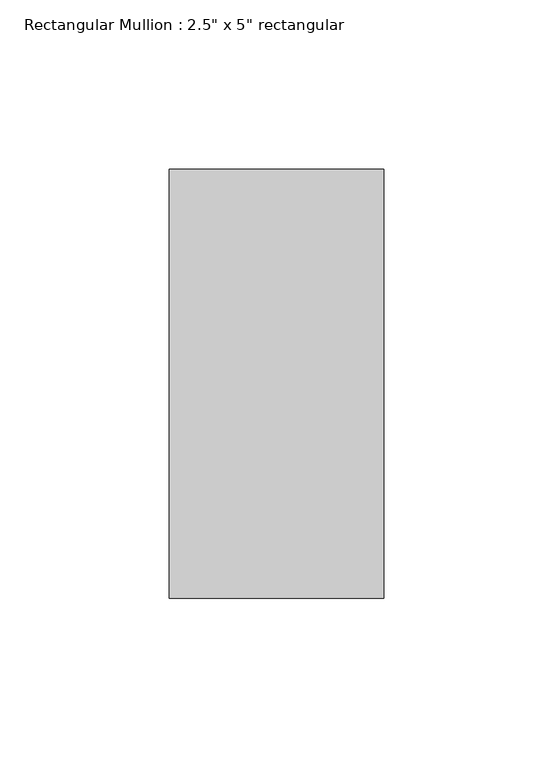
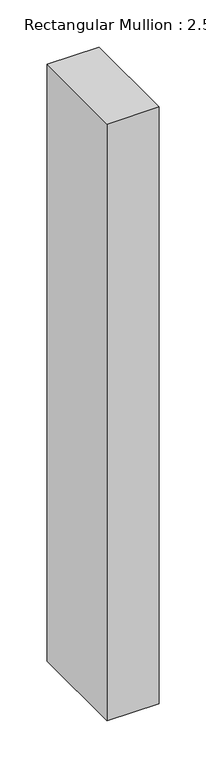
"""IFC4 building model written with IfcOpenShell, lengths in millimetres: member geometry."""

from ifc_helpers import new_model, si_unit, frame, origin, place, context, project, spatial, polyline, outline, extrude, source, transform, mapped, element, save


def member_0e55f5ff(model_context):
    return source(origin(), model_context, "Body", "SweptSolid", [
        extrude(outline(polyline([(31.75, 63.5), (31.75, -63.5), (-31.75, -63.5), (-31.75, 63.5), (31.75, 63.5)])), frame((0.0, 0.0, -770.89), z_axis=(0.0, 0.0, 1.0), x_axis=(1.0, 0.0, 0.0)), (0.0, 0.0, 1.0), 770.89),
    ])


if __name__ == "__main__":
    model = new_model("IFC4")
    model_context = context("Model", 3, world=origin())
    ifc_project = project(units=[si_unit("LENGTHUNIT", "METRE", prefix="MILLI")], contexts=[model_context])
    site = spatial("IfcSite", under=ifc_project)
    building = spatial("IfcBuilding", under=site)
    placement = place(None, origin())
    member_shape = member_0e55f5ff(model_context)
    element("IfcMember", 1, ObjectType="Rectangular Mullion : 2.5\" x 5\" rectangular", at=placement, inside=building, context=model_context, shape_type="MappedRepresentation", body=[
        mapped(member_shape, transform((0.0, 0.0, 0.0), x_axis=(1.0, 0.0, 0.0), y_axis=(0.0, 1.0, 0.0), z_axis=(0.0, 0.0, 1.0))),
    ])
    save(model, "model.ifc")
